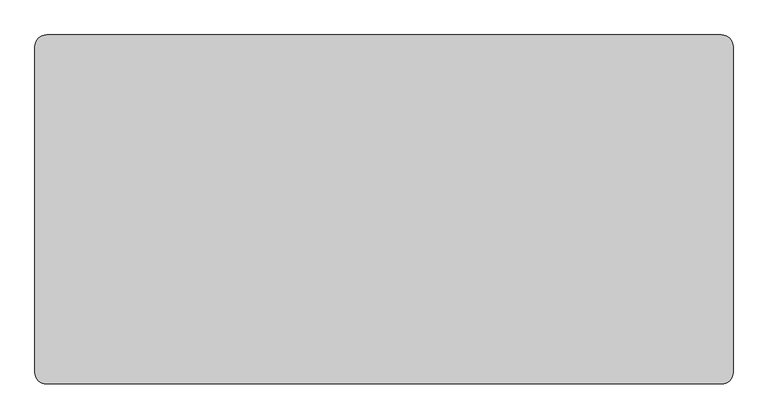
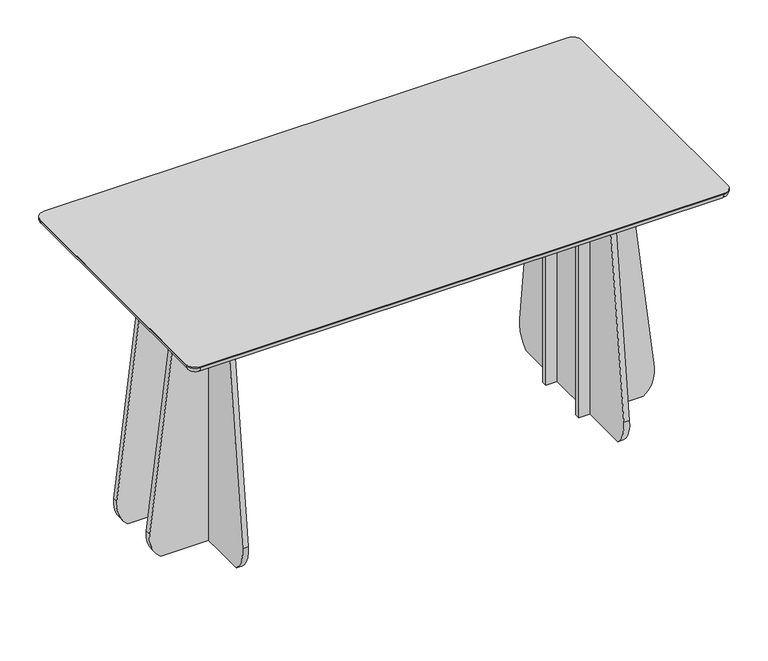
"""IFC4 building model written with IfcOpenShell, lengths in millimetres: furniture geometry, Lundbergs Möbler - Funghi Largo - Table - Rectangular - 180x90 - H90 : Lundbergs Möbler - Funghi Largo - Table - Rectangular - 180x90 - H90."""

import ifcopenshell
import ifcopenshell.guid

model = None  # the IFC model being written
_history = None  # IfcOwnerHistory: only IFC2X3 demands one
_inside = {}  # id of a spatial element -> (the spatial element, [elements in it])
_under = {}  # id of a project, library or spatial element -> (it, [spatial elements below it])
_declared = {}  # id of a project -> (the project, [libraries it declares])
_typed = {}  # id of a type object -> (the type object, [elements of that type])
_made_of = {}  # id of a material, layer set ... -> (it, [elements and type objects made of it])


def new_model(schema):
    """Start an empty IFC model of exactly this schema.

    Asked for "IFC4X3", IfcOpenShell would pick the latest addendum, in which some entities
    have other attributes; the version numbers below select the first issue.
    IFC2X3 requires an IfcOwnerHistory on every rooted entity: one is made here for all.
    """
    global model, _history
    if schema == "IFC4X3":
        model = ifcopenshell.file(schema_version=(4, 3, 0, 0))
    else:
        model = ifcopenshell.file(schema=schema)
    _inside.clear()
    _under.clear()
    _declared.clear()
    _typed.clear()
    _made_of.clear()
    _history = None
    if model.schema == "IFC2X3":
        org = make("IfcOrganization", Name="unknown")
        user = make(
            "IfcPersonAndOrganization",
            ThePerson=make("IfcPerson", FamilyName="unknown"),
            TheOrganization=org,
        )
        app = make(
            "IfcApplication",
            ApplicationDeveloper=org,
            Version="unknown",
            ApplicationFullName="unknown",
            ApplicationIdentifier="unknown",
        )
        _history = make(
            "IfcOwnerHistory",
            OwningUser=user,
            OwningApplication=app,
            ChangeAction="ADDED",
            CreationDate=0,
        )
    return model


def make(cls, **values):
    """One entity of the class cls with the attributes given. An attribute that is None is left unset."""
    return model.create_entity(
        cls, **{name: value for name, value in values.items() if value is not None}
    )


def rooted(cls, **values):
    """An entity with a GlobalId (a new one), such as an element, a storey or a relation."""
    return make(cls, GlobalId=ifcopenshell.guid.new(), OwnerHistory=_history, **values)


def si_unit(unit_type, name, prefix=None):
    """IfcSIUnit, for example si_unit("LENGTHUNIT", "METRE", prefix="MILLI")."""
    return make("IfcSIUnit", UnitType=unit_type, Prefix=prefix, Name=name)


def assignment(units):
    """IfcUnitAssignment: the units of a project."""
    return None if units is None else make("IfcUnitAssignment", Units=units)


def point(xyz):
    """IfcCartesianPoint."""
    return None if xyz is None else make("IfcCartesianPoint", Coordinates=xyz)


def direction(xyz):
    """IfcDirection."""
    return None if xyz is None else make("IfcDirection", DirectionRatios=xyz)


def frame(location, z_axis=None, x_axis=None):
    """IfcAxis2Placement3D, a coordinate frame: its origin and axes. An axis left out is left unset."""
    return make(
        "IfcAxis2Placement3D",
        Location=point(location),
        Axis=direction(z_axis),
        RefDirection=direction(x_axis),
    )


def frame_2d(location, x_axis=None):
    """IfcAxis2Placement2D, a coordinate frame in the plane: its origin and x axis."""
    return make(
        "IfcAxis2Placement2D", Location=point(location), RefDirection=direction(x_axis)
    )


def origin():
    """The frame at (0, 0, 0) with its axes left unset."""
    return frame((0.0, 0.0, 0.0))


def place(relative_to, where):
    """IfcLocalPlacement: puts the frame where relative to a parent placement (None: the world)."""
    return make(
        "IfcLocalPlacement", PlacementRelTo=relative_to, RelativePlacement=where
    )


def context(
    kind, dimensions, precision=None, world=None, true_north=None, identifier=None
):
    """IfcGeometricRepresentationContext, for example the 3D "Model" context."""
    return make(
        "IfcGeometricRepresentationContext",
        ContextIdentifier=identifier,
        ContextType=kind,
        CoordinateSpaceDimension=dimensions,
        Precision=precision,
        WorldCoordinateSystem=world,
        TrueNorth=true_north,
    )


def project(units=None, contexts=None):
    """IfcProject with its units and contexts."""
    return rooted(
        "IfcProject",
        Name="project",
        RepresentationContexts=contexts,
        UnitsInContext=assignment(units),
    )


def spatial(cls, under=None, at=None, **own):
    """A site, building, storey or space (cls), placed at a placement, below another one or the project."""
    s = rooted(cls, ObjectPlacement=at, **own)
    if under is not None:
        _under.setdefault(under.id(), (under, []))[1].append(s)
    return s


def polyline(points):
    """IfcPolyline through the points."""
    return make("IfcPolyline", Points=[point(p) for p in points])


def circle_curve(where, radius):
    """IfcCircle in the frame where."""
    return make("IfcCircle", Position=where, Radius=radius)


def ellipse_curve(where, semi_axis1, semi_axis2):
    """IfcEllipse in the frame where."""
    return make(
        "IfcEllipse", Position=where, SemiAxis1=semi_axis1, SemiAxis2=semi_axis2
    )


def trimmed(basis, trim1, trim2, sense, master):
    """IfcTrimmedCurve: the piece of a basis curve between two trims."""
    return make(
        "IfcTrimmedCurve",
        BasisCurve=basis,
        Trim1=trim1,
        Trim2=trim2,
        SenseAgreement=sense,
        MasterRepresentation=master,
    )


def segment(curve, same_sense, transition):
    """IfcCompositeCurveSegment."""
    return make(
        "IfcCompositeCurveSegment",
        Transition=transition,
        SameSense=same_sense,
        ParentCurve=curve,
    )


def composite_curve(segments, self_intersect=None):
    """IfcCompositeCurve: segments joined end to end."""
    return make("IfcCompositeCurve", Segments=segments, SelfIntersect=self_intersect)


def outline(outer, holes=None, kind="AREA"):
    """IfcArbitraryClosedProfileDef: a profile drawn as a closed curve; with holes, ...WithVoids."""
    if holes is None:
        return make("IfcArbitraryClosedProfileDef", ProfileType=kind, OuterCurve=outer)
    return make(
        "IfcArbitraryProfileDefWithVoids",
        ProfileType=kind,
        OuterCurve=outer,
        InnerCurves=holes,
    )


def extrude(swept, where, along, depth):
    """IfcExtrudedAreaSolid: the profile swept, set in the frame where, extruded along a direction by depth."""
    return make(
        "IfcExtrudedAreaSolid",
        SweptArea=swept,
        Position=where,
        ExtrudedDirection=direction(along),
        Depth=depth,
    )


def shape(context_of_items, identifier, shape_type, items):
    """IfcShapeRepresentation: the items that make up one representation, for example the "Body"."""
    return make(
        "IfcShapeRepresentation",
        ContextOfItems=context_of_items,
        RepresentationIdentifier=identifier,
        RepresentationType=shape_type,
        Items=items,
    )


def source(mapping_origin, context_of_items, identifier, shape_type, items):
    """IfcRepresentationMap: a shape defined once, which mapped items show again and again."""
    return make(
        "IfcRepresentationMap",
        MappingOrigin=mapping_origin,
        MappedRepresentation=shape(context_of_items, identifier, shape_type, items),
    )


def transform(
    local_origin,
    x_axis=None,
    y_axis=None,
    z_axis=None,
    scale=None,
    scale2=None,
    scale3=None,
    uniform=True,
):
    """IfcCartesianTransformationOperator3D, or its non-uniform kind. x_axis, y_axis, z_axis: its Axis1, 2, 3."""
    if uniform:
        return make(
            "IfcCartesianTransformationOperator3D",
            Axis1=direction(x_axis),
            Axis2=direction(y_axis),
            LocalOrigin=point(local_origin),
            Scale=scale,
            Axis3=direction(z_axis),
        )
    return make(
        "IfcCartesianTransformationOperator3DnonUniform",
        Axis1=direction(x_axis),
        Axis2=direction(y_axis),
        LocalOrigin=point(local_origin),
        Scale=scale,
        Axis3=direction(z_axis),
        Scale2=scale2,
        Scale3=scale3,
    )


def mapped(mapping_source, mapping_target):
    """IfcMappedItem: shows the shape of a source again, moved by a transform."""
    return make(
        "IfcMappedItem", MappingSource=mapping_source, MappingTarget=mapping_target
    )


def made_of(thing, what):
    """Note that an element or type object is made of a material, layer set ...; save() writes the relation."""
    if what is not None:
        _made_of.setdefault(what.id(), (what, []))[1].append(thing)
    return thing


def element(
    cls,
    number,
    at=None,
    inside=None,
    cuts=None,
    type_object=None,
    material=None,
    context=None,
    identifier="Body",
    shape_type=None,
    held_by="IfcProductDefinitionShape",
    body=None,
    shapes=None,
    **own,
):
    """One element of the class cls, such as IfcWall. Its Tag is "e" and its number.

    at: its placement. inside: the storey or other place that contains it. cuts: it is an
    opening in that element (IfcRelVoidsElement). A single representation is given by context,
    identifier, shape_type and body (its items); several are given by shapes. held_by: the class
    of the entity that holds the representations. save() writes the other relations.
    """
    e = rooted(cls, Tag="e%d" % number, ObjectPlacement=at, **own)
    if body is not None:
        shapes = [shape(context, identifier, shape_type, body)]
    if shapes is not None:
        e.Representation = make(held_by, Representations=shapes)
    if inside is not None:
        _inside.setdefault(inside.id(), (inside, []))[1].append(e)
    if cuts is not None:
        rooted(
            "IfcRelVoidsElement", RelatingBuildingElement=cuts, RelatedOpeningElement=e
        )
    if type_object is not None:
        _typed.setdefault(type_object.id(), (type_object, []))[1].append(e)
    return made_of(e, material)


def aggregate(whole, parts):
    """IfcRelAggregates: a whole, such as a stair, and the parts it consists of."""
    return rooted("IfcRelAggregates", RelatingObject=whole, RelatedObjects=parts)


def save(model, path):
    """Write the relations noted so far, then the file.

    IfcRelAggregates (storeys below a building ...), IfcRelContainedInSpatialStructure (elements
    in a storey), IfcRelDefinesByType, IfcRelAssociatesMaterial and IfcRelDeclares: one each for
    every whole, place, type object, material and project.
    """
    for whole, parts in _under.values():
        aggregate(whole, parts)
    for where, things in _inside.values():
        rooted(
            "IfcRelContainedInSpatialStructure",
            RelatedElements=things,
            RelatingStructure=where,
        )
    for kind, things in _typed.values():
        rooted("IfcRelDefinesByType", RelatedObjects=things, RelatingType=kind)
    for what, things in _made_of.values():
        rooted("IfcRelAssociatesMaterial", RelatedObjects=things, RelatingMaterial=what)
    for by, libraries in _declared.values():
        rooted("IfcRelDeclares", RelatingContext=by, RelatedDefinitions=libraries)
    model.write(path)


def plane_surface(at):
    """IfcPlane: the flat surface through the origin of the frame at, square to its z axis."""
    return make("IfcPlane", Position=at)


def cylinder_surface(at, radius):
    """IfcCylindricalSurface: all points at the distance radius from the z axis of the frame at."""
    return make("IfcCylindricalSurface", Position=at, Radius=radius)


def revolved_surface(curve, axis_point, axis_direction):
    """IfcSurfaceOfRevolution: the curve turned about the line through axis_point along axis_direction."""
    return make(
        "IfcSurfaceOfRevolution",
        SweptCurve=make("IfcArbitraryOpenProfileDef", ProfileType="CURVE", Curve=curve),
        AxisPosition=make("IfcAxis1Placement", Location=point(axis_point), Axis=direction(axis_direction)),
    )


def advanced_brep(points, edges, surfaces, faces):
    """IfcAdvancedBrep: a solid bounded by faces that lie on surfaces and meet in shared edges.

    An edge is (start, end): straight between two places in points (the first is 0);
    or (start, end, curve); or (start, end, curve, False) where it runs against its curve.
    A face is (place in surfaces, loops), or (place, loops, False) where it looks against
    its surface's normal. A loop lists edges by number (the first is 1), with a minus sign
    where the edge is run from its end to its start. The first loop is the outer one.
    """
    corners = [point(p) for p in points]
    vertices = [make("IfcVertexPoint", VertexGeometry=c) for c in corners]
    made = []
    for start, end, *more in edges:
        made.append(
            make(
                "IfcEdgeCurve",
                EdgeStart=vertices[start],
                EdgeEnd=vertices[end],
                EdgeGeometry=more[0] if more else make("IfcPolyline", Points=[corners[start], corners[end]]),
                SameSense=more[1] if len(more) > 1 else True,
            )
        )
    hull = []
    for where, loops, *sense in faces:
        bounds = []
        for j, loop in enumerate(loops):
            ring = [make("IfcOrientedEdge", EdgeElement=made[abs(k) - 1], Orientation=k > 0) for k in loop]
            bounds.append(
                make(
                    "IfcFaceOuterBound" if j == 0 else "IfcFaceBound",
                    Bound=make("IfcEdgeLoop", EdgeList=ring),
                    Orientation=True,
                )
            )
        hull.append(make("IfcAdvancedFace", Bounds=bounds, FaceSurface=surfaces[where], SameSense=sense[0] if sense else True))
    return make("IfcAdvancedBrep", Outer=make("IfcClosedShell", CfsFaces=hull))


def furniture_efe6b180(model_context):
    return source(origin(), model_context, "Body", "SolidModel", [
        advanced_brep(
        [(-880.0, 420.0, 876.0), (-900.0, 420.0, 896.0), (-870.0, 450.0, 896.0), (-870.0, 430.0, 876.0), (-880.0, -420.0, 876.0), (-900.0, -420.0, 896.0), (-870.0, -430.0, 876.0), (-870.0, -450.0, 896.0), (870.0, -430.0, 876.0), (870.0, -450.0, 896.0), (880.0, -420.0, 876.0), (900.0, -420.0, 896.0), (880.0, 420.0, 876.0), (900.0, 420.0, 896.0), (870.0, 430.0, 876.0), (870.0, 450.0, 896.0), (870.0, 450.0, 900.0), (-870.0, 450.0, 900.0), (-900.0, 420.0, 900.0), (-900.0, -420.0, 900.0), (-870.0, -450.0, 900.0), (870.0, -450.0, 900.0), (900.0, -420.0, 900.0), (900.0, 420.0, 900.0)],
        [
            (0, 1, circle_curve(frame((-880.0, 420.0, 896.0), z_axis=(0.0, 1.0, 0.0), x_axis=(1.0, 0.0, 0.0)), 20.0)),
            (1, 2, circle_curve(frame((-870.0, 420.0, 896.0), z_axis=(0.0, 0.0, -1.0), x_axis=(0.0, 1.0, 0.0)), 30.0)),
            (2, 3, circle_curve(frame((-870.0, 430.0, 896.0), z_axis=(-1.0, 0.0, 0.0), x_axis=(0.0, -1.0, 0.0)), 20.0)),
            (3, 0, circle_curve(frame((-870.0, 420.0, 876.0), z_axis=(0.0, 0.0, 1.0), x_axis=(0.0, 1.0, 0.0)), 10.0)),
            (0, 4),
            (4, 5, circle_curve(frame((-880.0, -420.0, 896.0), z_axis=(0.0, 1.0, 0.0), x_axis=(1.0, 0.0, 0.0)), 20.0)),
            (5, 1),
            (4, 6, circle_curve(frame((-870.0, -420.0, 876.0), z_axis=(0.0, 0.0, 1.0), x_axis=(-1.0, 0.0, 0.0)), 10.0)),
            (6, 7, circle_curve(frame((-870.0, -430.0, 896.0), z_axis=(-1.0, 0.0, 0.0), x_axis=(0.0, 1.0, 0.0)), 20.0)),
            (7, 5, circle_curve(frame((-870.0, -420.0, 896.0), z_axis=(0.0, 0.0, -1.0), x_axis=(-1.0, 0.0, 0.0)), 30.0)),
            (6, 8),
            (8, 9, circle_curve(frame((870.0, -430.0, 896.0), z_axis=(-1.0, 0.0, 0.0), x_axis=(0.0, 1.0, 0.0)), 20.0)),
            (9, 7),
            (8, 10, circle_curve(frame((870.0, -420.0, 876.0), z_axis=(0.0, 0.0, 1.0), x_axis=(0.0, -1.0, 0.0)), 10.0)),
            (10, 11, circle_curve(frame((880.0, -420.0, 896.0), z_axis=(0.0, -1.0, 0.0), x_axis=(-1.0, 0.0, 0.0)), 20.0)),
            (11, 9, circle_curve(frame((870.0, -420.0, 896.0), z_axis=(0.0, 0.0, -1.0), x_axis=(0.0, -1.0, 0.0)), 30.0)),
            (10, 12),
            (12, 13, circle_curve(frame((880.0, 420.0, 896.0), z_axis=(0.0, -1.0, 0.0), x_axis=(-1.0, 0.0, 0.0)), 20.0)),
            (13, 11),
            (12, 14, circle_curve(frame((870.0, 420.0, 876.0), z_axis=(0.0, 0.0, 1.0), x_axis=(1.0, 0.0, 0.0)), 10.0)),
            (14, 15, circle_curve(frame((870.0, 430.0, 896.0), z_axis=(1.0, 0.0, 0.0), x_axis=(0.0, -1.0, 0.0)), 20.0)),
            (15, 13, circle_curve(frame((870.0, 420.0, 896.0), z_axis=(0.0, 0.0, -1.0), x_axis=(1.0, 0.0, 0.0)), 30.0)),
            (2, 15),
            (14, 3),
            (16, 17),
            (17, 18, circle_curve(frame((-870.0, 420.0, 900.0), z_axis=(0.0, 0.0, 1.0), x_axis=(0.0, 1.0, 0.0)), 30.0)),
            (18, 19),
            (19, 20, circle_curve(frame((-870.0, -420.0, 900.0), z_axis=(0.0, 0.0, 1.0), x_axis=(0.0, 1.0, 0.0)), 30.0)),
            (20, 21),
            (21, 22, circle_curve(frame((870.0, -420.0, 900.0), z_axis=(0.0, 0.0, 1.0), x_axis=(0.0, 1.0, 0.0)), 30.0)),
            (22, 23),
            (23, 16, circle_curve(frame((870.0, 420.0, 900.0), z_axis=(0.0, 0.0, 1.0), x_axis=(0.0, 1.0, 0.0)), 30.0)),
            (16, 15),
            (2, 17),
            (1, 18),
            (5, 19),
            (7, 20),
            (9, 21),
            (11, 22),
            (13, 23),
        ],
        [
            revolved_surface(trimmed(ellipse_curve(frame((-870.0, 430.0, 896.0), z_axis=(1.0, 0.0, 0.0), x_axis=(0.0, -1.0, 0.0)), 20.0, 20.0), [point((-870.0, 430.0, 876.0))], [point((-870.0, 450.0, 896.0))], True, "CARTESIAN"), (-870.0, 420.0, 170.0), (0.0, 0.0, 1.0)),
            cylinder_surface(frame((-880.0, 420.0, 896.0), z_axis=(0.0, -1.0, 0.0), x_axis=(1.0, 0.0, 0.0)), 20.0),
            revolved_surface(trimmed(ellipse_curve(frame((-880.0, -420.0, 896.0), z_axis=(0.0, 1.0, 0.0), x_axis=(1.0, 0.0, 0.0)), 20.0, 20.0), [point((-880.0, -420.0, 876.0))], [point((-900.0, -420.0, 896.0))], True, "CARTESIAN"), (-870.0, -420.0, 170.0), (0.0, 0.0, 1.0)),
            cylinder_surface(frame((-870.0, -430.0, 896.0), z_axis=(1.0, 0.0, 0.0), x_axis=(0.0, 1.0, 0.0)), 20.0),
            revolved_surface(trimmed(ellipse_curve(frame((870.0, -430.0, 896.0), z_axis=(-1.0, 0.0, 0.0), x_axis=(0.0, 1.0, 0.0)), 20.0, 20.0), [point((870.0, -430.0, 876.0))], [point((870.0, -450.0, 896.0))], True, "CARTESIAN"), (870.0, -420.0, 170.0), (0.0, 0.0, 1.0)),
            cylinder_surface(frame((880.0, -420.0, 896.0), z_axis=(0.0, 1.0, 0.0), x_axis=(-1.0, 0.0, 0.0)), 20.0),
            revolved_surface(trimmed(ellipse_curve(frame((880.0, 420.0, 896.0), z_axis=(0.0, -1.0, 0.0), x_axis=(-1.0, 0.0, 0.0)), 20.0, 20.0), [point((880.0, 420.0, 876.0))], [point((900.0, 420.0, 896.0))], True, "CARTESIAN"), (870.0, 420.0, 170.0), (0.0, 0.0, 1.0)),
            cylinder_surface(frame((870.0, 430.0, 896.0), z_axis=(-1.0, 0.0, 0.0), x_axis=(0.0, -1.0, 0.0)), 20.0),
            plane_surface(frame((-870.0, 450.0, 900.0), z_axis=(0.0, 0.0, 1.0), x_axis=(-1.0, 0.0, 0.0))),
            plane_surface(frame((-870.0, 450.0, 876.0), z_axis=(0.0, 0.0, -1.0), x_axis=(1.0, 0.0, 0.0))),
            plane_surface(frame((870.0, 450.0, 900.0), z_axis=(0.0, 1.0, 0.0), x_axis=(0.0, 0.0, -1.0))),
            cylinder_surface(frame((-870.0, 420.0, 876.0), z_axis=(0.0, 0.0, 1.0), x_axis=(0.0, 1.0, 0.0)), 30.0),
            plane_surface(frame((-900.0, 420.0, 900.0), z_axis=(-1.0, 0.0, 0.0), x_axis=(0.0, 0.0, -1.0))),
            cylinder_surface(frame((-870.0, -420.0, 876.0), z_axis=(0.0, 0.0, 1.0), x_axis=(0.0, 1.0, 0.0)), 30.0),
            plane_surface(frame((-870.0, -450.0, 900.0), z_axis=(0.0, -1.0, 0.0), x_axis=(0.0, 0.0, -1.0))),
            cylinder_surface(frame((870.0, -420.0, 876.0), z_axis=(0.0, 0.0, 1.0), x_axis=(0.0, 1.0, 0.0)), 30.0),
            plane_surface(frame((900.0, -420.0, 900.0), z_axis=(1.0, 0.0, 0.0), x_axis=(0.0, 0.0, -1.0))),
            cylinder_surface(frame((870.0, 420.0, 876.0), z_axis=(0.0, 0.0, 1.0), x_axis=(0.0, 1.0, 0.0)), 30.0),
        ],
        [
            (0, [[1, 2, 3, 4]]),
            (1, [[-1, 5, 6, 7]]),
            (2, [[-6, 8, 9, 10]]),
            (3, [[-9, 11, 12, 13]]),
            (4, [[-12, 14, 15, 16]]),
            (5, [[-15, 17, 18, 19]]),
            (6, [[-18, 20, 21, 22]]),
            (7, [[-3, 23, -21, 24]]),
            (8, [[25, 26, 27, 28, 29, 30, 31, 32]]),
            (9, [[-4, -24, -20, -17, -14, -11, -8, -5]]),
            (10, [[-25, 33, -23, 34]]),
            (11, [[-26, -34, -2, 35]]),
            (12, [[-27, -35, -7, 36]]),
            (13, [[-28, -36, -10, 37]]),
            (14, [[-29, -37, -13, 38]]),
            (15, [[-30, -38, -16, 39]]),
            (16, [[-31, -39, -19, 40]]),
            (17, [[-32, -40, -22, -33]]),
        ],
    ),
        extrude(outline(composite_curve([segment(polyline([(681.25, 180.0), (717.25, 180.0)]), True, "CONTINUOUS"), segment(trimmed(circle_curve(frame_2d((717.25, 178.0)), 2.0), [point((717.25, 180.0))], [point((719.25, 178.0))], False, "CARTESIAN"), True, "CONTINUOUS"), segment(polyline([(719.25, 178.0), (719.25, -178.0)]), True, "CONTINUOUS"), segment(trimmed(circle_curve(frame_2d((717.25, -178.0)), 2.0), [point((719.25, -178.0))], [point((717.25, -180.0))], False, "CARTESIAN"), True, "CONTINUOUS"), segment(polyline([(717.25, -180.0), (681.25, -180.0)]), True, "CONTINUOUS"), segment(trimmed(circle_curve(frame_2d((681.25, -178.0)), 2.0), [point((681.25, -180.0))], [point((679.25, -178.0))], False, "CARTESIAN"), True, "CONTINUOUS"), segment(polyline([(679.25, -178.0), (679.25, 178.0)]), True, "CONTINUOUS"), segment(trimmed(circle_curve(frame_2d((681.25, 178.0)), 2.0), [point((679.25, 178.0))], [point((681.25, 180.0))], False, "CARTESIAN"), True, "CONTINUOUS")], self_intersect=False)), frame((0.0, 0.0, 856.0), z_axis=(0.0, 0.0, 1.0), x_axis=(1.0, 0.0, 0.0)), (0.0, 0.0, 1.0), 20.0),
        extrude(outline(composite_curve([segment(polyline([(561.25, 180.0), (651.25, 180.0)]), True, "CONTINUOUS"), segment(trimmed(circle_curve(frame_2d((651.25, 176.5)), 3.5), [point((651.25, 180.0))], [point((654.75, 176.5))], False, "CARTESIAN"), True, "CONTINUOUS"), segment(polyline([(654.75, 176.5), (654.75, 143.5)]), True, "CONTINUOUS"), segment(trimmed(circle_curve(frame_2d((651.25, 143.5)), 3.5), [point((654.75, 143.5))], [point((651.25, 140.0))], False, "CARTESIAN"), True, "CONTINUOUS"), segment(polyline([(651.25, 140.0), (561.25, 140.0)]), True, "CONTINUOUS"), segment(trimmed(circle_curve(frame_2d((561.25, 143.5)), 3.5), [point((561.25, 140.0))], [point((557.75, 143.5))], False, "CARTESIAN"), True, "CONTINUOUS"), segment(polyline([(557.75, 143.5), (557.75, 176.5)]), True, "CONTINUOUS"), segment(trimmed(circle_curve(frame_2d((561.25, 176.5)), 3.5), [point((557.75, 176.5))], [point((561.25, 180.0))], False, "CARTESIAN"), True, "CONTINUOUS")], self_intersect=False)), frame((0.0, 0.0, 856.0), z_axis=(0.0, 0.0, 1.0), x_axis=(1.0, 0.0, 0.0)), (0.0, 0.0, 1.0), 20.0),
        extrude(outline(composite_curve([segment(polyline([(561.25, -140.0), (651.25, -140.0)]), True, "CONTINUOUS"), segment(trimmed(circle_curve(frame_2d((651.25, -143.5)), 3.5), [point((651.25, -140.0))], [point((654.75, -143.5))], False, "CARTESIAN"), True, "CONTINUOUS"), segment(polyline([(654.75, -143.5), (654.75, -176.5)]), True, "CONTINUOUS"), segment(trimmed(circle_curve(frame_2d((651.25, -176.5)), 3.5), [point((654.75, -176.5))], [point((651.25, -180.0))], False, "CARTESIAN"), True, "CONTINUOUS"), segment(polyline([(651.25, -180.0), (561.25, -180.0)]), True, "CONTINUOUS"), segment(trimmed(circle_curve(frame_2d((561.25, -176.5)), 3.5), [point((561.25, -180.0))], [point((557.75, -176.5))], False, "CARTESIAN"), True, "CONTINUOUS"), segment(polyline([(557.75, -176.5), (557.75, -143.5)]), True, "CONTINUOUS"), segment(trimmed(circle_curve(frame_2d((561.25, -143.5)), 3.5), [point((557.75, -143.5))], [point((561.25, -140.0))], False, "CARTESIAN"), True, "CONTINUOUS")], self_intersect=False)), frame((0.0, 0.0, 856.0), z_axis=(0.0, 0.0, 1.0), x_axis=(1.0, 0.0, 0.0)), (0.0, 0.0, 1.0), 20.0),
        extrude(outline(composite_curve([segment(trimmed(circle_curve(frame_2d((200.0, 78.0350603)), 100.0), [point((299.2807726, 90.0070355))], [point((262.5342255, 0.0))], False, "CARTESIAN"), True, "CONTINUOUS"), segment(polyline([(262.5342255, 0.0), (-262.5342255, 0.0)]), True, "CONTINUOUS"), segment(trimmed(circle_curve(frame_2d((-200.0, 78.0350603)), 100.0), [point((-262.5342255, 0.0))], [point((-299.2807726, 90.0070355))], False, "CARTESIAN"), True, "CONTINUOUS"), segment(polyline([(-299.2807726, 90.0070355), (-204.500202, 876.0), (204.500202, 876.0), (299.2807726, 90.0070355)]), True, "CONTINUOUS")], self_intersect=False)), frame((624.25, 0.0, 0.0), z_axis=(1.0, 0.0, 0.0), x_axis=(0.0, 1.0, 0.0)), (0.0, 0.0, 1.0), 18.5),
        extrude(outline(composite_curve([segment(polyline([(90.0070355, 838.5307726), (876.0, 743.750202), (876.0, 587.25), (0.0, 587.25), (0.0, 801.7842255)]), True, "CONTINUOUS"), segment(trimmed(circle_curve(frame_2d((78.0350603, 739.25)), 100.0), [point((0.0, 801.7842255))], [point((90.0070355, 838.5307726))], False, "CARTESIAN"), True, "CONTINUOUS")], self_intersect=False)), frame((0.0, 85.5, 0.0), z_axis=(0.0, 1.0, 0.0), x_axis=(0.0, 0.0, 1.0)), (0.0, 0.0, 1.0), 18.0),
        extrude(outline(composite_curve([segment(polyline([(90.0070355, 838.5307726), (876.0, 743.750202), (876.0, 587.25), (0.0, 587.25), (0.0, 801.7842255)]), True, "CONTINUOUS"), segment(trimmed(circle_curve(frame_2d((78.0350603, 739.25)), 100.0), [point((0.0, 801.7842255))], [point((90.0070355, 838.5307726))], False, "CARTESIAN"), True, "CONTINUOUS")], self_intersect=False)), frame((0.0, -103.5, 0.0), z_axis=(0.0, 1.0, 0.0), x_axis=(0.0, 0.0, 1.0)), (0.0, 0.0, 1.0), 18.0),
        extrude(outline(composite_curve([segment(trimmed(circle_curve(frame_2d((-681.25, 178.0)), 2.0), [point((-681.25, 180.0))], [point((-679.25, 178.0))], False, "CARTESIAN"), True, "CONTINUOUS"), segment(polyline([(-679.25, 178.0), (-679.25, -178.0)]), True, "CONTINUOUS"), segment(trimmed(circle_curve(frame_2d((-681.25, -178.0)), 2.0), [point((-679.25, -178.0))], [point((-681.25, -180.0))], False, "CARTESIAN"), True, "CONTINUOUS"), segment(polyline([(-681.25, -180.0), (-717.25, -180.0)]), True, "CONTINUOUS"), segment(trimmed(circle_curve(frame_2d((-717.25, -178.0)), 2.0), [point((-717.25, -180.0))], [point((-719.25, -178.0))], False, "CARTESIAN"), True, "CONTINUOUS"), segment(polyline([(-719.25, -178.0), (-719.25, 178.0)]), True, "CONTINUOUS"), segment(trimmed(circle_curve(frame_2d((-717.25, 178.0)), 2.0), [point((-719.25, 178.0))], [point((-717.25, 180.0))], False, "CARTESIAN"), True, "CONTINUOUS"), segment(polyline([(-717.25, 180.0), (-681.25, 180.0)]), True, "CONTINUOUS")], self_intersect=False)), frame((0.0, 0.0, 856.0), z_axis=(0.0, 0.0, 1.0), x_axis=(1.0, 0.0, 0.0)), (0.0, 0.0, 1.0), 20.0),
        extrude(outline(composite_curve([segment(trimmed(circle_curve(frame_2d((-561.25, 176.5)), 3.5), [point((-561.25, 180.0))], [point((-557.75, 176.5))], False, "CARTESIAN"), True, "CONTINUOUS"), segment(polyline([(-557.75, 176.5), (-557.75, 143.5)]), True, "CONTINUOUS"), segment(trimmed(circle_curve(frame_2d((-561.25, 143.5)), 3.5), [point((-557.75, 143.5))], [point((-561.25, 140.0))], False, "CARTESIAN"), True, "CONTINUOUS"), segment(polyline([(-561.25, 140.0), (-651.25, 140.0)]), True, "CONTINUOUS"), segment(trimmed(circle_curve(frame_2d((-651.25, 143.5)), 3.5), [point((-651.25, 140.0))], [point((-654.75, 143.5))], False, "CARTESIAN"), True, "CONTINUOUS"), segment(polyline([(-654.75, 143.5), (-654.75, 176.5)]), True, "CONTINUOUS"), segment(trimmed(circle_curve(frame_2d((-651.25, 176.5)), 3.5), [point((-654.75, 176.5))], [point((-651.25, 180.0))], False, "CARTESIAN"), True, "CONTINUOUS"), segment(polyline([(-651.25, 180.0), (-561.25, 180.0)]), True, "CONTINUOUS")], self_intersect=False)), frame((0.0, 0.0, 856.0), z_axis=(0.0, 0.0, 1.0), x_axis=(1.0, 0.0, 0.0)), (0.0, 0.0, 1.0), 20.0),
        extrude(outline(composite_curve([segment(trimmed(circle_curve(frame_2d((-561.25, -143.5)), 3.5), [point((-561.25, -140.0))], [point((-557.75, -143.5))], False, "CARTESIAN"), True, "CONTINUOUS"), segment(polyline([(-557.75, -143.5), (-557.75, -176.5)]), True, "CONTINUOUS"), segment(trimmed(circle_curve(frame_2d((-561.25, -176.5)), 3.5), [point((-557.75, -176.5))], [point((-561.25, -180.0))], False, "CARTESIAN"), True, "CONTINUOUS"), segment(polyline([(-561.25, -180.0), (-651.25, -180.0)]), True, "CONTINUOUS"), segment(trimmed(circle_curve(frame_2d((-651.25, -176.5)), 3.5), [point((-651.25, -180.0))], [point((-654.75, -176.5))], False, "CARTESIAN"), True, "CONTINUOUS"), segment(polyline([(-654.75, -176.5), (-654.75, -143.5)]), True, "CONTINUOUS"), segment(trimmed(circle_curve(frame_2d((-651.25, -143.5)), 3.5), [point((-654.75, -143.5))], [point((-651.25, -140.0))], False, "CARTESIAN"), True, "CONTINUOUS"), segment(polyline([(-651.25, -140.0), (-561.25, -140.0)]), True, "CONTINUOUS")], self_intersect=False)), frame((0.0, 0.0, 856.0), z_axis=(0.0, 0.0, 1.0), x_axis=(1.0, 0.0, 0.0)), (0.0, 0.0, 1.0), 20.0),
        extrude(outline(composite_curve([segment(trimmed(circle_curve(frame_2d((200.0, 78.0350603)), 100.0), [point((299.2807726, 90.0070355))], [point((262.5342255, 0.0))], False, "CARTESIAN"), True, "CONTINUOUS"), segment(polyline([(262.5342255, 0.0), (-262.5342255, 0.0)]), True, "CONTINUOUS"), segment(trimmed(circle_curve(frame_2d((-200.0, 78.0350603)), 100.0), [point((-262.5342255, 0.0))], [point((-299.2807726, 90.0070355))], False, "CARTESIAN"), True, "CONTINUOUS"), segment(polyline([(-299.2807726, 90.0070355), (-204.500202, 876.0), (204.500202, 876.0), (299.2807726, 90.0070355)]), True, "CONTINUOUS")], self_intersect=False)), frame((-642.75, 0.0, 0.0), z_axis=(1.0, 0.0, 0.0), x_axis=(0.0, 1.0, 0.0)), (0.0, 0.0, 1.0), 18.5),
        extrude(outline(composite_curve([segment(trimmed(circle_curve(frame_2d((78.0350603, -739.25)), 100.0), [point((90.0070355, -838.5307726))], [point((0.0, -801.7842255))], False, "CARTESIAN"), True, "CONTINUOUS"), segment(polyline([(0.0, -801.7842255), (0.0, -587.25), (876.0, -587.25), (876.0, -743.750202), (90.0070355, -838.5307726)]), True, "CONTINUOUS")], self_intersect=False)), frame((0.0, 85.5, 0.0), z_axis=(0.0, 1.0, 0.0), x_axis=(0.0, 0.0, 1.0)), (0.0, 0.0, 1.0), 18.0),
        extrude(outline(composite_curve([segment(trimmed(circle_curve(frame_2d((78.0350603, -739.25)), 100.0), [point((90.0070355, -838.5307726))], [point((0.0, -801.7842255))], False, "CARTESIAN"), True, "CONTINUOUS"), segment(polyline([(0.0, -801.7842255), (0.0, -587.25), (876.0, -587.25), (876.0, -743.750202), (90.0070355, -838.5307726)]), True, "CONTINUOUS")], self_intersect=False)), frame((0.0, -103.5, 0.0), z_axis=(0.0, 1.0, 0.0), x_axis=(0.0, 0.0, 1.0)), (0.0, 0.0, 1.0), 18.0),
    ])


if __name__ == "__main__":
    model = new_model("IFC4")
    model_context = context("Model", 3, world=origin())
    ifc_project = project(units=[si_unit("LENGTHUNIT", "METRE", prefix="MILLI")], contexts=[model_context])
    site = spatial("IfcSite", under=ifc_project)
    building = spatial("IfcBuilding", under=site)
    placement = place(None, origin())
    furniture_shape = furniture_efe6b180(model_context)
    element("IfcFurniture", 1, ObjectType="Lundbergs Möbler - Funghi Largo - Table - Rectangular - 180x90 - H90 : Lundbergs Möbler - Funghi Largo - Table - Rectangular - 180x90 - H90", at=placement, inside=building, context=model_context, shape_type="MappedRepresentation", body=[
        mapped(furniture_shape, transform((0.0, 0.0, 0.0), x_axis=(1.0, 0.0, 0.0), y_axis=(0.0, 1.0, 0.0), z_axis=(0.0, 0.0, 1.0))),
    ])
    save(model, "model.ifc")
